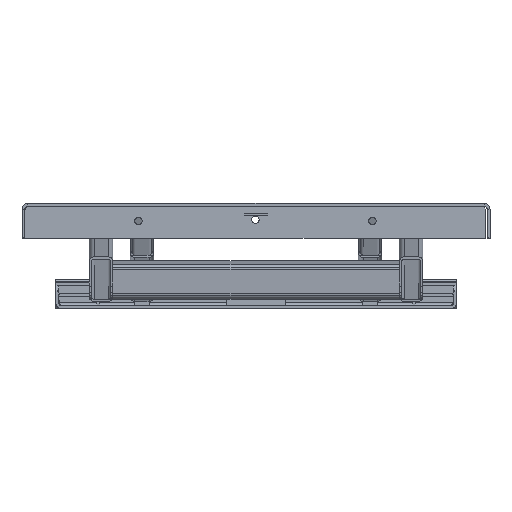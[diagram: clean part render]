
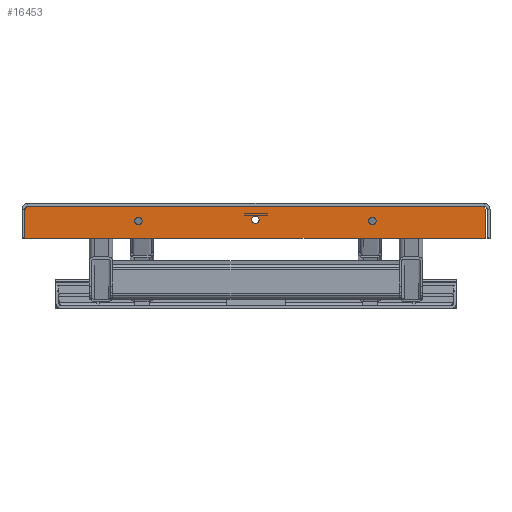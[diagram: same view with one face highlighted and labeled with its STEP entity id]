
A CAD part, left-side view. The second image highlights one B-rep face of the part: STEP entity #16453.
In plain terms, the highlighted planar face has unit normal (-1, 0, 0) as drawn and (0, 0, 1) by its records, which use the part's own axes.
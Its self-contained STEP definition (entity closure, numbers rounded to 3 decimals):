
#989=FACE_BOUND('',#3646,.T.);
#990=FACE_BOUND('',#3647,.T.);
#991=FACE_BOUND('',#3648,.T.);
#1675=CIRCLE('',#18130,1.);
#1685=CIRCLE('',#18143,1.);
#1686=CIRCLE('',#18145,1.);
#1687=CIRCLE('',#18148,1.);
#1688=CIRCLE('',#18150,1.);
#1689=CIRCLE('',#18153,1.);
#1690=CIRCLE('',#18156,6.25);
#1691=CIRCLE('',#18158,6.25);
#1692=CIRCLE('',#18160,6.25);
#2512=FACE_OUTER_BOUND('',#3645,.T.);
#3645=EDGE_LOOP('',(#14931,#14932,#14933,#14934,#14935,#14936,#14937,#14938,
#14939,#14940,#14941,#14942));
#3646=EDGE_LOOP('',(#14943));
#3647=EDGE_LOOP('',(#14944));
#3648=EDGE_LOOP('',(#14945));
#5134=LINE('',#28154,#6641);
#5139=LINE('',#28168,#6646);
#5144=LINE('',#28181,#6651);
#5147=LINE('',#28189,#6654);
#5148=LINE('',#28200,#6655);
#5149=LINE('',#28202,#6656);
#6641=VECTOR('',#22633,10.);
#6646=VECTOR('',#22648,10.);
#6651=VECTOR('',#22663,10.);
#6654=VECTOR('',#22672,10.);
#6655=VECTOR('',#22687,10.);
#6656=VECTOR('',#22690,10.);
#8173=VERTEX_POINT('',#28116);
#8174=VERTEX_POINT('',#28117);
#8190=VERTEX_POINT('',#28153);
#8191=VERTEX_POINT('',#28157);
#8192=VERTEX_POINT('',#28161);
#8193=VERTEX_POINT('',#28162);
#8194=VERTEX_POINT('',#28167);
#8195=VERTEX_POINT('',#28171);
#8196=VERTEX_POINT('',#28175);
#8197=VERTEX_POINT('',#28176);
#8198=VERTEX_POINT('',#28183);
#8199=VERTEX_POINT('',#28184);
#8200=VERTEX_POINT('',#28191);
#8201=VERTEX_POINT('',#28194);
#8202=VERTEX_POINT('',#28197);
#10425=EDGE_CURVE('',#8173,#8174,#1675,.T.);
#10443=EDGE_CURVE('',#8174,#8190,#5134,.T.);
#10445=EDGE_CURVE('',#8190,#8191,#1685,.T.);
#10447=EDGE_CURVE('',#8192,#8193,#1686,.T.);
#10450=EDGE_CURVE('',#8193,#8194,#5139,.T.);
#10452=EDGE_CURVE('',#8194,#8195,#1687,.T.);
#10454=EDGE_CURVE('',#8196,#8197,#1688,.T.);
#10457=EDGE_CURVE('',#8191,#8196,#5144,.T.);
#10458=EDGE_CURVE('',#8198,#8199,#1689,.T.);
#10461=EDGE_CURVE('',#8199,#8192,#5147,.T.);
#10462=EDGE_CURVE('',#8200,#8200,#1690,.T.);
#10463=EDGE_CURVE('',#8201,#8201,#1691,.T.);
#10464=EDGE_CURVE('',#8202,#8202,#1692,.T.);
#10465=EDGE_CURVE('',#8195,#8173,#5148,.T.);
#10466=EDGE_CURVE('',#8197,#8198,#5149,.T.);
#14931=ORIENTED_EDGE('',*,*,#10425,.F.);
#14932=ORIENTED_EDGE('',*,*,#10465,.F.);
#14933=ORIENTED_EDGE('',*,*,#10452,.F.);
#14934=ORIENTED_EDGE('',*,*,#10450,.F.);
#14935=ORIENTED_EDGE('',*,*,#10447,.F.);
#14936=ORIENTED_EDGE('',*,*,#10461,.F.);
#14937=ORIENTED_EDGE('',*,*,#10458,.F.);
#14938=ORIENTED_EDGE('',*,*,#10466,.F.);
#14939=ORIENTED_EDGE('',*,*,#10454,.F.);
#14940=ORIENTED_EDGE('',*,*,#10457,.F.);
#14941=ORIENTED_EDGE('',*,*,#10445,.F.);
#14942=ORIENTED_EDGE('',*,*,#10443,.F.);
#14943=ORIENTED_EDGE('',*,*,#10462,.T.);
#14944=ORIENTED_EDGE('',*,*,#10463,.T.);
#14945=ORIENTED_EDGE('',*,*,#10464,.T.);
#15621=PLANE('',#18163);
#16453=ADVANCED_FACE('',(#2512,#989,#990,#991),#15621,.T.);
#18130=AXIS2_PLACEMENT_3D('',#28118,#22601,#22602);
#18143=AXIS2_PLACEMENT_3D('',#28158,#22637,#22638);
#18145=AXIS2_PLACEMENT_3D('',#28163,#22642,#22643);
#18148=AXIS2_PLACEMENT_3D('',#28172,#22652,#22653);
#18150=AXIS2_PLACEMENT_3D('',#28177,#22657,#22658);
#18153=AXIS2_PLACEMENT_3D('',#28185,#22666,#22667);
#18156=AXIS2_PLACEMENT_3D('',#28192,#22675,#22676);
#18158=AXIS2_PLACEMENT_3D('',#28195,#22679,#22680);
#18160=AXIS2_PLACEMENT_3D('',#28198,#22683,#22684);
#18163=AXIS2_PLACEMENT_3D('',#28203,#22691,#22692);
#22601=DIRECTION('center_axis',(0.,0.,-1.));
#22602=DIRECTION('ref_axis',(-0.383,-0.924,0.));
#22633=DIRECTION('',(-0.707,0.707,0.));
#22637=DIRECTION('center_axis',(0.,0.,-1.));
#22638=DIRECTION('ref_axis',(-0.924,-0.383,0.));
#22642=DIRECTION('center_axis',(0.,0.,-1.));
#22643=DIRECTION('ref_axis',(0.924,-0.383,0.));
#22648=DIRECTION('',(-0.707,-0.707,0.));
#22652=DIRECTION('center_axis',(0.,0.,-1.));
#22653=DIRECTION('ref_axis',(0.383,-0.924,0.));
#22657=DIRECTION('center_axis',(0.,0.,-1.));
#22658=DIRECTION('ref_axis',(-0.707,0.707,0.));
#22663=DIRECTION('',(0.,1.,0.));
#22666=DIRECTION('center_axis',(0.,0.,-1.));
#22667=DIRECTION('ref_axis',(0.707,0.707,0.));
#22672=DIRECTION('',(0.,-1.,0.));
#22675=DIRECTION('center_axis',(0.,0.,-1.));
#22676=DIRECTION('ref_axis',(1.,0.,0.));
#22679=DIRECTION('center_axis',(0.,0.,-1.));
#22680=DIRECTION('ref_axis',(1.,0.,0.));
#22683=DIRECTION('center_axis',(0.,0.,-1.));
#22684=DIRECTION('ref_axis',(1.,0.,0.));
#22687=DIRECTION('',(-1.,0.,0.));
#22690=DIRECTION('',(1.,0.,0.));
#22691=DIRECTION('center_axis',(0.,0.,1.));
#22692=DIRECTION('ref_axis',(1.,0.,0.));
#28116=CARTESIAN_POINT('',(-388.586,-27.5,5.));
#28117=CARTESIAN_POINT('',(-389.293,-27.207,5.));
#28118=CARTESIAN_POINT('Origin',(-388.586,-26.5,5.));
#28153=CARTESIAN_POINT('',(-393.707,-22.793,5.));
#28154=CARTESIAN_POINT('',(-299.875,-116.625,5.));
#28157=CARTESIAN_POINT('',(-394.,-22.086,5.));
#28158=CARTESIAN_POINT('Origin',(-393.,-22.086,5.));
#28161=CARTESIAN_POINT('',(394.,-22.086,5.));
#28162=CARTESIAN_POINT('',(393.707,-22.793,5.));
#28163=CARTESIAN_POINT('Origin',(393.,-22.086,5.));
#28167=CARTESIAN_POINT('',(389.293,-27.207,5.));
#28168=CARTESIAN_POINT('',(299.875,-116.625,5.));
#28171=CARTESIAN_POINT('',(388.586,-27.5,5.));
#28172=CARTESIAN_POINT('Origin',(388.586,-26.5,5.));
#28175=CARTESIAN_POINT('',(-394.,26.5,5.));
#28176=CARTESIAN_POINT('',(-393.,27.5,5.));
#28177=CARTESIAN_POINT('Origin',(-393.,26.5,5.));
#28181=CARTESIAN_POINT('',(-394.,-27.5,5.));
#28183=CARTESIAN_POINT('',(393.,27.5,5.));
#28184=CARTESIAN_POINT('',(394.,26.5,5.));
#28185=CARTESIAN_POINT('Origin',(393.,26.5,5.));
#28189=CARTESIAN_POINT('',(394.,27.5,5.));
#28191=CARTESIAN_POINT('',(206.25,-2.5,5.));
#28192=CARTESIAN_POINT('Origin',(200.,-2.5,5.));
#28194=CARTESIAN_POINT('',(6.25,-4.5,5.));
#28195=CARTESIAN_POINT('Origin',(0.,-4.5,5.));
#28197=CARTESIAN_POINT('',(-193.75,-2.5,5.));
#28198=CARTESIAN_POINT('Origin',(-200.,-2.5,5.));
#28200=CARTESIAN_POINT('',(394.,-27.5,5.));
#28202=CARTESIAN_POINT('',(-394.,27.5,5.));
#28203=CARTESIAN_POINT('Origin',(0.,0.,5.));
